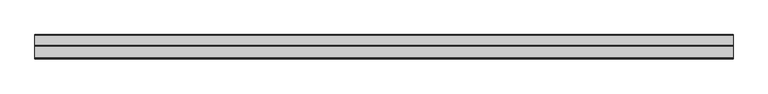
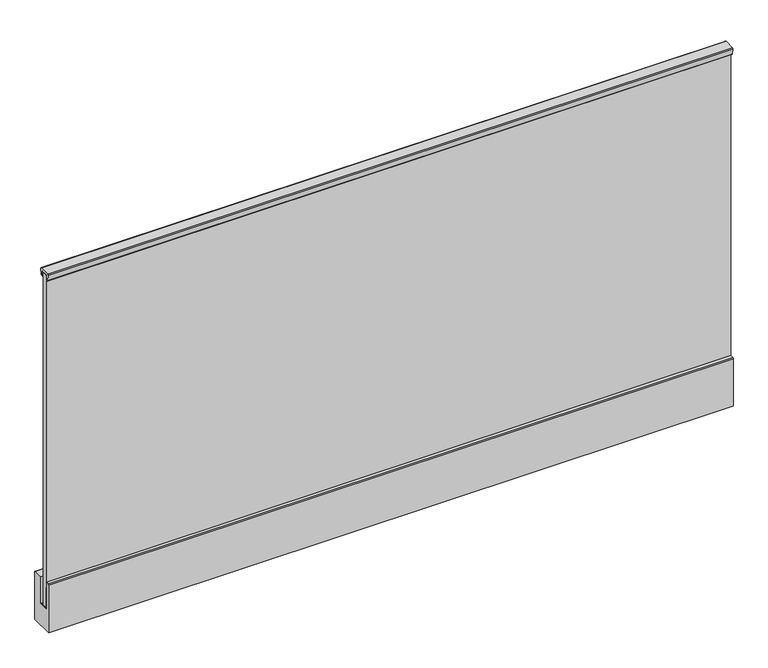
"""IFC4 building model written with IfcOpenShell, lengths in millimetres: railing geometry, Glass Railing (8+8) - Faraone - Ninfa 186 - Fascia mounted - Trapez Handrail 42."""

import ifcopenshell
import ifcopenshell.guid

model = None  # the IFC model being written
_history = None  # IfcOwnerHistory: only IFC2X3 demands one
_inside = {}  # id of a spatial element -> (the spatial element, [elements in it])
_under = {}  # id of a project, library or spatial element -> (it, [spatial elements below it])
_declared = {}  # id of a project -> (the project, [libraries it declares])
_typed = {}  # id of a type object -> (the type object, [elements of that type])
_made_of = {}  # id of a material, layer set ... -> (it, [elements and type objects made of it])


def new_model(schema):
    """Start an empty IFC model of exactly this schema.

    Asked for "IFC4X3", IfcOpenShell would pick the latest addendum, in which some entities
    have other attributes; the version numbers below select the first issue.
    IFC2X3 requires an IfcOwnerHistory on every rooted entity: one is made here for all.
    """
    global model, _history
    if schema == "IFC4X3":
        model = ifcopenshell.file(schema_version=(4, 3, 0, 0))
    else:
        model = ifcopenshell.file(schema=schema)
    _inside.clear()
    _under.clear()
    _declared.clear()
    _typed.clear()
    _made_of.clear()
    _history = None
    if model.schema == "IFC2X3":
        org = make("IfcOrganization", Name="unknown")
        user = make(
            "IfcPersonAndOrganization",
            ThePerson=make("IfcPerson", FamilyName="unknown"),
            TheOrganization=org,
        )
        app = make(
            "IfcApplication",
            ApplicationDeveloper=org,
            Version="unknown",
            ApplicationFullName="unknown",
            ApplicationIdentifier="unknown",
        )
        _history = make(
            "IfcOwnerHistory",
            OwningUser=user,
            OwningApplication=app,
            ChangeAction="ADDED",
            CreationDate=0,
        )
    return model


def make(cls, **values):
    """One entity of the class cls with the attributes given. An attribute that is None is left unset."""
    return model.create_entity(
        cls, **{name: value for name, value in values.items() if value is not None}
    )


def rooted(cls, **values):
    """An entity with a GlobalId (a new one), such as an element, a storey or a relation."""
    return make(cls, GlobalId=ifcopenshell.guid.new(), OwnerHistory=_history, **values)


def si_unit(unit_type, name, prefix=None):
    """IfcSIUnit, for example si_unit("LENGTHUNIT", "METRE", prefix="MILLI")."""
    return make("IfcSIUnit", UnitType=unit_type, Prefix=prefix, Name=name)


def assignment(units):
    """IfcUnitAssignment: the units of a project."""
    return None if units is None else make("IfcUnitAssignment", Units=units)


def point(xyz):
    """IfcCartesianPoint."""
    return None if xyz is None else make("IfcCartesianPoint", Coordinates=xyz)


def direction(xyz):
    """IfcDirection."""
    return None if xyz is None else make("IfcDirection", DirectionRatios=xyz)


def frame(location, z_axis=None, x_axis=None):
    """IfcAxis2Placement3D, a coordinate frame: its origin and axes. An axis left out is left unset."""
    return make(
        "IfcAxis2Placement3D",
        Location=point(location),
        Axis=direction(z_axis),
        RefDirection=direction(x_axis),
    )


def frame_2d(location, x_axis=None):
    """IfcAxis2Placement2D, a coordinate frame in the plane: its origin and x axis."""
    return make(
        "IfcAxis2Placement2D", Location=point(location), RefDirection=direction(x_axis)
    )


def origin():
    """The frame at (0, 0, 0) with its axes left unset."""
    return frame((0.0, 0.0, 0.0))


def place(relative_to, where):
    """IfcLocalPlacement: puts the frame where relative to a parent placement (None: the world)."""
    return make(
        "IfcLocalPlacement", PlacementRelTo=relative_to, RelativePlacement=where
    )


def context(
    kind, dimensions, precision=None, world=None, true_north=None, identifier=None
):
    """IfcGeometricRepresentationContext, for example the 3D "Model" context."""
    return make(
        "IfcGeometricRepresentationContext",
        ContextIdentifier=identifier,
        ContextType=kind,
        CoordinateSpaceDimension=dimensions,
        Precision=precision,
        WorldCoordinateSystem=world,
        TrueNorth=true_north,
    )


def project(units=None, contexts=None):
    """IfcProject with its units and contexts."""
    return rooted(
        "IfcProject",
        Name="project",
        RepresentationContexts=contexts,
        UnitsInContext=assignment(units),
    )


def spatial(cls, under=None, at=None, **own):
    """A site, building, storey or space (cls), placed at a placement, below another one or the project."""
    s = rooted(cls, ObjectPlacement=at, **own)
    if under is not None:
        _under.setdefault(under.id(), (under, []))[1].append(s)
    return s


def polyline(points):
    """IfcPolyline through the points."""
    return make("IfcPolyline", Points=[point(p) for p in points])


def circle_curve(where, radius):
    """IfcCircle in the frame where."""
    return make("IfcCircle", Position=where, Radius=radius)


def trimmed(basis, trim1, trim2, sense, master):
    """IfcTrimmedCurve: the piece of a basis curve between two trims."""
    return make(
        "IfcTrimmedCurve",
        BasisCurve=basis,
        Trim1=trim1,
        Trim2=trim2,
        SenseAgreement=sense,
        MasterRepresentation=master,
    )


def segment(curve, same_sense, transition):
    """IfcCompositeCurveSegment."""
    return make(
        "IfcCompositeCurveSegment",
        Transition=transition,
        SameSense=same_sense,
        ParentCurve=curve,
    )


def composite_curve(segments, self_intersect=None):
    """IfcCompositeCurve: segments joined end to end."""
    return make("IfcCompositeCurve", Segments=segments, SelfIntersect=self_intersect)


def outline(outer, holes=None, kind="AREA"):
    """IfcArbitraryClosedProfileDef: a profile drawn as a closed curve; with holes, ...WithVoids."""
    if holes is None:
        return make("IfcArbitraryClosedProfileDef", ProfileType=kind, OuterCurve=outer)
    return make(
        "IfcArbitraryProfileDefWithVoids",
        ProfileType=kind,
        OuterCurve=outer,
        InnerCurves=holes,
    )


def extrude(swept, where, along, depth):
    """IfcExtrudedAreaSolid: the profile swept, set in the frame where, extruded along a direction by depth."""
    return make(
        "IfcExtrudedAreaSolid",
        SweptArea=swept,
        Position=where,
        ExtrudedDirection=direction(along),
        Depth=depth,
    )


def shape(context_of_items, identifier, shape_type, items):
    """IfcShapeRepresentation: the items that make up one representation, for example the "Body"."""
    return make(
        "IfcShapeRepresentation",
        ContextOfItems=context_of_items,
        RepresentationIdentifier=identifier,
        RepresentationType=shape_type,
        Items=items,
    )


def source(mapping_origin, context_of_items, identifier, shape_type, items):
    """IfcRepresentationMap: a shape defined once, which mapped items show again and again."""
    return make(
        "IfcRepresentationMap",
        MappingOrigin=mapping_origin,
        MappedRepresentation=shape(context_of_items, identifier, shape_type, items),
    )


def transform(
    local_origin,
    x_axis=None,
    y_axis=None,
    z_axis=None,
    scale=None,
    scale2=None,
    scale3=None,
    uniform=True,
):
    """IfcCartesianTransformationOperator3D, or its non-uniform kind. x_axis, y_axis, z_axis: its Axis1, 2, 3."""
    if uniform:
        return make(
            "IfcCartesianTransformationOperator3D",
            Axis1=direction(x_axis),
            Axis2=direction(y_axis),
            LocalOrigin=point(local_origin),
            Scale=scale,
            Axis3=direction(z_axis),
        )
    return make(
        "IfcCartesianTransformationOperator3DnonUniform",
        Axis1=direction(x_axis),
        Axis2=direction(y_axis),
        LocalOrigin=point(local_origin),
        Scale=scale,
        Axis3=direction(z_axis),
        Scale2=scale2,
        Scale3=scale3,
    )


def mapped(mapping_source, mapping_target):
    """IfcMappedItem: shows the shape of a source again, moved by a transform."""
    return make(
        "IfcMappedItem", MappingSource=mapping_source, MappingTarget=mapping_target
    )


def made_of(thing, what):
    """Note that an element or type object is made of a material, layer set ...; save() writes the relation."""
    if what is not None:
        _made_of.setdefault(what.id(), (what, []))[1].append(thing)
    return thing


def element(
    cls,
    number,
    at=None,
    inside=None,
    cuts=None,
    type_object=None,
    material=None,
    context=None,
    identifier="Body",
    shape_type=None,
    held_by="IfcProductDefinitionShape",
    body=None,
    shapes=None,
    **own,
):
    """One element of the class cls, such as IfcWall. Its Tag is "e" and its number.

    at: its placement. inside: the storey or other place that contains it. cuts: it is an
    opening in that element (IfcRelVoidsElement). A single representation is given by context,
    identifier, shape_type and body (its items); several are given by shapes. held_by: the class
    of the entity that holds the representations. save() writes the other relations.
    """
    e = rooted(cls, Tag="e%d" % number, ObjectPlacement=at, **own)
    if body is not None:
        shapes = [shape(context, identifier, shape_type, body)]
    if shapes is not None:
        e.Representation = make(held_by, Representations=shapes)
    if inside is not None:
        _inside.setdefault(inside.id(), (inside, []))[1].append(e)
    if cuts is not None:
        rooted(
            "IfcRelVoidsElement", RelatingBuildingElement=cuts, RelatedOpeningElement=e
        )
    if type_object is not None:
        _typed.setdefault(type_object.id(), (type_object, []))[1].append(e)
    return made_of(e, material)


def aggregate(whole, parts):
    """IfcRelAggregates: a whole, such as a stair, and the parts it consists of."""
    return rooted("IfcRelAggregates", RelatingObject=whole, RelatedObjects=parts)


def save(model, path):
    """Write the relations noted so far, then the file.

    IfcRelAggregates (storeys below a building ...), IfcRelContainedInSpatialStructure (elements
    in a storey), IfcRelDefinesByType, IfcRelAssociatesMaterial and IfcRelDeclares: one each for
    every whole, place, type object, material and project.
    """
    for whole, parts in _under.values():
        aggregate(whole, parts)
    for where, things in _inside.values():
        rooted(
            "IfcRelContainedInSpatialStructure",
            RelatedElements=things,
            RelatingStructure=where,
        )
    for kind, things in _typed.values():
        rooted("IfcRelDefinesByType", RelatedObjects=things, RelatingType=kind)
    for what, things in _made_of.values():
        rooted("IfcRelAssociatesMaterial", RelatedObjects=things, RelatingMaterial=what)
    for by, libraries in _declared.values():
        rooted("IfcRelDeclares", RelatingContext=by, RelatedDefinitions=libraries)
    model.write(path)


def railing_399f807e(model_context):
    return source(origin(), model_context, "Body", "SweptSolid", [
        extrude(outline(composite_curve([segment(polyline([(-3451.456775, 1109.56), (-3415.1002746, 1109.56)]), True, "CONTINUOUS"), segment(trimmed(circle_curve(frame_2d((-3415.1002746, 1106.5130839)), 3.0469161), [point((-3415.1002746, 1109.56))], [point((-3412.0832453, 1106.0873703))], False, "CARTESIAN"), True, "CONTINUOUS"), segment(polyline([(-3412.0832453, 1106.0873703), (-3414.875143, 1086.3012064)]), True, "CONTINUOUS"), segment(trimmed(circle_curve(frame_2d((-3416.8792883, 1086.5839984)), 2.0239984), [point((-3414.875143, 1086.3012064))], [point((-3416.8792883, 1084.56))], False, "CARTESIAN"), True, "CONTINUOUS"), segment(polyline([(-3416.8792883, 1084.56), (-3420.5285248, 1084.56), (-3420.5285248, 1102.56), (-3446.0285248, 1102.56), (-3446.0285248, 1084.56), (-3449.6777613, 1084.56)]), True, "CONTINUOUS"), segment(trimmed(circle_curve(frame_2d((-3449.6777613, 1086.5839984)), 2.0239984), [point((-3449.6777613, 1084.56))], [point((-3451.6819066, 1086.3012064))], False, "CARTESIAN"), True, "CONTINUOUS"), segment(polyline([(-3451.6819066, 1086.3012064), (-3454.4738044, 1106.0873703)]), True, "CONTINUOUS"), segment(trimmed(circle_curve(frame_2d((-3451.456775, 1106.5130839)), 3.0469161), [point((-3454.4738044, 1106.0873703))], [point((-3451.456775, 1109.56))], False, "CARTESIAN"), True, "CONTINUOUS")], self_intersect=False)), frame((4362.6376845, 0.0, 0.0), z_axis=(1.0, 0.0, 0.0), x_axis=(0.0, 1.0, 0.0)), (0.0, 0.0, 1.0), 2320.0),
        extrude(outline(polyline([(-3441.7085248, -92.36), (-3441.7085248, 1100.56), (-3433.8085248, 1100.56), (-3433.8085248, -91.56), (-3432.8085248, -91.56), (-3432.8085248, 1100.56), (-3424.9085248, 1100.56), (-3424.9085248, -92.36), (-3441.7085248, -92.36)])), frame((4362.6376845, 0.0, 0.0), z_axis=(1.0, 0.0, 0.0), x_axis=(0.0, 1.0, 0.0)), (0.0, 0.0, 1.0), 2320.0),
        extrude(outline(composite_curve([segment(polyline([(-3453.5810944, -0.0006325), (-3443.6766539, -0.0006325), (-3443.6766539, -95.3393625), (-3411.9003958, -95.3393625), (-3411.9003958, -0.0006325), (-3379.4196599, -0.0006325)]), True, "CONTINUOUS"), segment(trimmed(circle_curve(frame_2d((-3379.4196599, -3.0621312)), 3.0614987), [point((-3379.4196599, -0.0006325))], [point((-3376.3581612, -3.0621312))], False, "CARTESIAN"), True, "CONTINUOUS"), segment(polyline([(-3376.3581612, -3.0621312), (-3376.3581612, -173.21), (-3456.7016946, -173.21), (-3456.7016946, -3.1212327)]), True, "CONTINUOUS"), segment(trimmed(circle_curve(frame_2d((-3453.5810944, -3.1212327)), 3.1206002), [point((-3456.7016946, -3.1212327))], [point((-3453.5810944, -0.0006325))], False, "CARTESIAN"), True, "CONTINUOUS")], self_intersect=False)), frame((4362.6376845, 0.0, 0.0), z_axis=(1.0, 0.0, 0.0), x_axis=(0.0, 1.0, 0.0)), (0.0, 0.0, 1.0), 2320.0),
        extrude(outline(polyline([(-3443.6804396, -95.34), (-3443.6804396, -20.1108016), (-3441.7064916, -20.1108016), (-3441.7064916, -92.3609041), (-3420.19661, -92.3609041), (-3420.19661, -95.34), (-3443.6804396, -95.34)])), frame((4362.6376845, 0.0, 0.0), z_axis=(1.0, 0.0, 0.0), x_axis=(0.0, 1.0, 0.0)), (0.0, 0.0, 1.0), 2320.0),
        extrude(outline(polyline([(4362.6376845, -3446.0285248), (4362.6376845, -3441.6285248), (6682.6376845, -3441.6285248), (6682.6376845, -3446.0285248), (4362.6376845, -3446.0285248)])), frame((0.0, 0.0, 1089.82), z_axis=(0.0, 0.0, 1.0), x_axis=(1.0, 0.0, 0.0)), (0.0, 0.0, 1.0), 10.74),
        extrude(outline(polyline([(4362.6376845, -3424.9085248), (4362.6376845, -3420.5085248), (6682.6376845, -3420.5085248), (6682.6376845, -3424.9085248), (4362.6376845, -3424.9085248)])), frame((0.0, 0.0, 1089.82), z_axis=(0.0, 0.0, 1.0), x_axis=(1.0, 0.0, 0.0)), (0.0, 0.0, 1.0), 10.74),
        extrude(outline(polyline([(4362.6376845, -3444.1085248), (4362.6376845, -3422.6085248), (6682.6376845, -3422.6085248), (6682.6376845, -3444.1085248), (4362.6376845, -3444.1085248)])), frame((0.0, 0.0, 1100.56), z_axis=(0.0, 0.0, 1.0), x_axis=(1.0, 0.0, 0.0)), (0.0, 0.0, 1.0), 2.0),
    ])


if __name__ == "__main__":
    model = new_model("IFC4")
    model_context = context("Model", 3, world=origin())
    ifc_project = project(units=[si_unit("LENGTHUNIT", "METRE", prefix="MILLI")], contexts=[model_context])
    site = spatial("IfcSite", under=ifc_project)
    building = spatial("IfcBuilding", under=site)
    placement = place(None, origin())
    railing_shape = railing_399f807e(model_context)
    element("IfcRailing", 1, ObjectType="Glass Railing (8+8) - Faraone - Ninfa 186 - Fascia mounted - Trapez Handrail 42", at=placement, inside=building, context=model_context, shape_type="MappedRepresentation", body=[
        mapped(railing_shape, transform((0.0, 0.0, 0.0), x_axis=(1.0, 0.0, 0.0), y_axis=(0.0, 1.0, 0.0), z_axis=(0.0, 0.0, 1.0))),
    ])
    save(model, "model.ifc")
